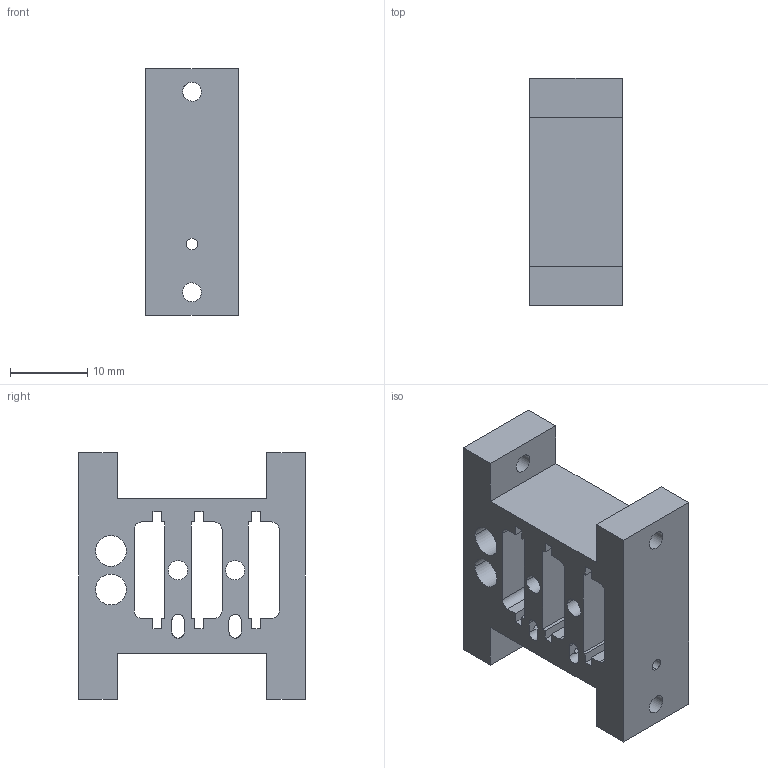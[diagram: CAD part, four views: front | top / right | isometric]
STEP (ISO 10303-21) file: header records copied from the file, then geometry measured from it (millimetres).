
FILE_DESCRIPTION(('CATIA V5-6R2013 STEP','CAx-IF Rec.Pracs.--- Model Styling and Organization---1.2---2011-12-15','CAx-IF Rec.Pracs.--- Geometric and Assembly Validation Properties ---3.1---2011-10-19'),'2;1');
FILE_NAME('G:\Users\a\agaldame\Alice\IB mock-up\PPanel portion\PPanel portion10102017.stp','2017-10-10T15:31:25+00:00',('none'),('CERN'),'CATIA Version 5-6 Release 2013 SP5','CATIA V5 STEP AP214','none');
FILE_SCHEMA(('AUTOMOTIVE_DESIGN { 1 0 10303 214 1 1 1 1 }'));
Length unit declared in the file: millimetre
Products named in the file (1): ST0835150_01
Bounding box: 12 x 29.38 x 32 mm (x, y, z)
Volume: 5166.9 mm3; surface area: 4960.3 mm2
Topology: 1 solids, 1 shells, 136 faces, 455 edges, 308 vertices
Faces by surface type: plane 88, cylinder 48
Entity records: 4809 total; most frequent: CARTESIAN_POINT 1037, ORIENTED_EDGE 910, DIRECTION 564, EDGE_CURVE 455, VECTOR 333, LINE 333, VERTEX_POINT 308, AXIS2_PLACEMENT_3D 169
